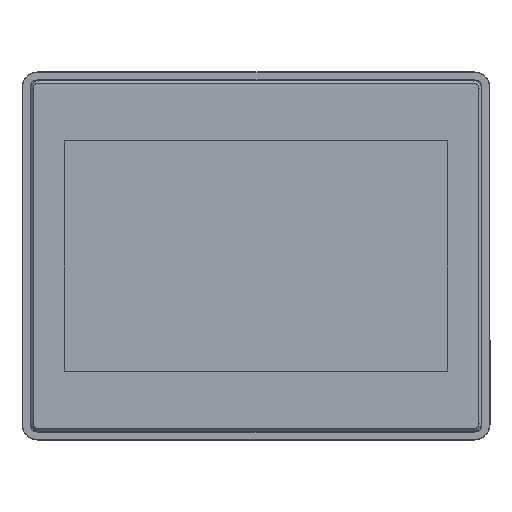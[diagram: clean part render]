
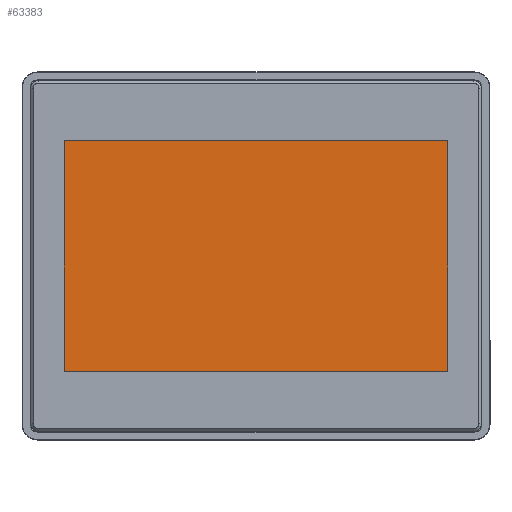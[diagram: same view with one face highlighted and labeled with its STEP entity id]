
A CAD part, top view. The second image highlights one B-rep face of the part: STEP entity #63383.
In plain terms, the highlighted planar face has unit normal (0, 0, 1).
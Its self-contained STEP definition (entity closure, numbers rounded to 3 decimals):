
#10542 = EDGE_LOOP ( 'NONE', ( #75546, #75545, #75547, #75548 ) ) ;
#31093 = AXIS2_PLACEMENT_3D ( 'NONE', #42262, #42268, #42269 ) ;
#36005 = FACE_OUTER_BOUND ( 'NONE', #10542, .T. ) ;
#42262 = CARTESIAN_POINT ( 'NONE',  ( -90.2, -70.2, 4.36 ) ) ;
#42263 = PLANE ( 'NONE',  #31093 ) ;
#42268 = DIRECTION ( 'NONE',  ( 0., 0., 1. ) ) ;
#42269 = DIRECTION ( 'NONE',  ( 1., 0., 0. ) ) ;
#50210 = CARTESIAN_POINT ( 'NONE',  ( 76.7, 46.22, 4.36 ) ) ;
#50211 = CARTESIAN_POINT ( 'NONE',  ( 76.7, -46.22, 4.36 ) ) ;
#50214 = CARTESIAN_POINT ( 'NONE',  ( -76.7, 46.22, 4.36 ) ) ;
#50220 = CARTESIAN_POINT ( 'NONE',  ( -76.7, -46.22, 4.36 ) ) ;
#62586 = LINE ( 'NONE', #66731, #62587 ) ;
#62587 = VECTOR ( 'NONE', #66733, 1000. ) ;
#62636 = LINE ( 'NONE', #66810, #62638 ) ;
#62638 = VECTOR ( 'NONE', #66812, 1000. ) ;
#62640 = LINE ( 'NONE', #66815, #62641 ) ;
#62641 = VECTOR ( 'NONE', #66817, 1000. ) ;
#62643 = LINE ( 'NONE', #66820, #62645 ) ;
#62645 = VECTOR ( 'NONE', #66822, 1000. ) ;
#63383 = ADVANCED_FACE ( 'NONE', ( #36005 ), #42263, .T. ) ;
#66731 = CARTESIAN_POINT ( 'NONE',  ( -76.7, 46.22, 4.36 ) ) ;
#66733 = DIRECTION ( 'NONE',  ( 0., 1., 0. ) ) ;
#66746 = VERTEX_POINT ( 'NONE', #50210 ) ;
#66747 = VERTEX_POINT ( 'NONE', #50211 ) ;
#66753 = VERTEX_POINT ( 'NONE', #50214 ) ;
#66764 = VERTEX_POINT ( 'NONE', #50220 ) ;
#66810 = CARTESIAN_POINT ( 'NONE',  ( 76.7, -46.22, 4.36 ) ) ;
#66812 = DIRECTION ( 'NONE',  ( -1., 0., 0. ) ) ;
#66815 = CARTESIAN_POINT ( 'NONE',  ( 76.7, 46.22, 4.36 ) ) ;
#66817 = DIRECTION ( 'NONE',  ( 1., 0., 0. ) ) ;
#66820 = CARTESIAN_POINT ( 'NONE',  ( 76.7, 46.22, 4.36 ) ) ;
#66822 = DIRECTION ( 'NONE',  ( 0., -1., 0. ) ) ;
#75545 = ORIENTED_EDGE ( 'NONE', *, *, #78052, .F. ) ;
#75546 = ORIENTED_EDGE ( 'NONE', *, *, #78050, .F. ) ;
#75547 = ORIENTED_EDGE ( 'NONE', *, *, #78051, .F. ) ;
#75548 = ORIENTED_EDGE ( 'NONE', *, *, #78035, .F. ) ;
#78035 = EDGE_CURVE ( 'NONE', #66764, #66753, #62586, .T. ) ;
#78050 = EDGE_CURVE ( 'NONE', #66747, #66764, #62636, .T. ) ;
#78051 = EDGE_CURVE ( 'NONE', #66753, #66746, #62640, .T. ) ;
#78052 = EDGE_CURVE ( 'NONE', #66746, #66747, #62643, .T. ) ;
